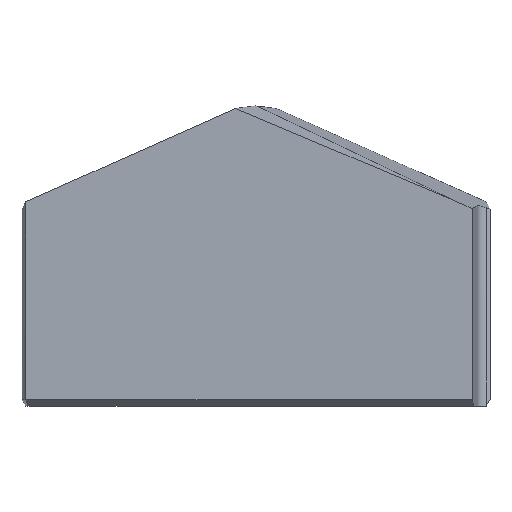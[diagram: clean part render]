
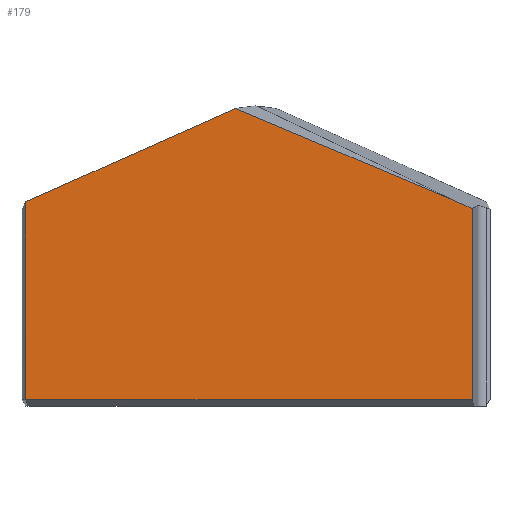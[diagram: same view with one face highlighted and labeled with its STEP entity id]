
A CAD part, top view. The second image highlights one B-rep face of the part: STEP entity #179.
In plain terms, the highlighted planar face has unit normal (0, 0, 1).
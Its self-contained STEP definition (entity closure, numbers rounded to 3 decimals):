
#13 = VERTEX_POINT ( 'NONE', #131 ) ;
#37 = VECTOR ( 'NONE', #39, 1000. ) ;
#39 = DIRECTION ( 'NONE',  ( -0.914, 0.407, 0. ) ) ;
#53 = EDGE_CURVE ( 'NONE', #126, #295, #177, .T. ) ;
#54 = DIRECTION ( 'NONE',  ( 1., 0., 0. ) ) ;
#60 = CARTESIAN_POINT ( 'NONE',  ( 10.265, 0., 4. ) ) ;
#61 = CARTESIAN_POINT ( 'NONE',  ( -10.931, 0.296, 4. ) ) ;
#64 = DIRECTION ( 'NONE',  ( 0., 1., 0. ) ) ;
#79 = VECTOR ( 'NONE', #323, 1000. ) ;
#113 = LINE ( 'NONE', #172, #79 ) ;
#126 = VERTEX_POINT ( 'NONE', #300 ) ;
#131 = CARTESIAN_POINT ( 'NONE',  ( -10.927, 0.289, 4. ) ) ;
#132 = VECTOR ( 'NONE', #403, 1000. ) ;
#152 = ORIENTED_EDGE ( 'NONE', *, *, #53, .T. ) ;
#158 = DIRECTION ( 'NONE',  ( 0., 0., 1. ) ) ;
#172 = CARTESIAN_POINT ( 'NONE',  ( 0., 14.56, 4. ) ) ;
#173 = DIRECTION ( 'NONE',  ( 0., 1., 0. ) ) ;
#176 = VECTOR ( 'NONE', #64, 1000. ) ;
#177 = LINE ( 'NONE', #203, #37 ) ;
#179 = ADVANCED_FACE ( 'NONE', ( #581 ), #306, .T. ) ;
#185 = VERTEX_POINT ( 'NONE', #366 ) ;
#189 = CARTESIAN_POINT ( 'NONE',  ( 9.378, 9.769, 4. ) ) ;
#203 = CARTESIAN_POINT ( 'NONE',  ( 5.181, 11.638, 4. ) ) ;
#214 = VERTEX_POINT ( 'NONE', #222 ) ;
#216 = VERTEX_POINT ( 'NONE', #420 ) ;
#222 = CARTESIAN_POINT ( 'NONE',  ( 10.265, 0.289, 4. ) ) ;
#224 = ORIENTED_EDGE ( 'NONE', *, *, #274, .T. ) ;
#228 = EDGE_CURVE ( 'NONE', #216, #13, #623, .T. ) ;
#231 = EDGE_LOOP ( 'NONE', ( #152, #303, #224, #471, #512, #414, #526 ) ) ;
#250 = EDGE_CURVE ( 'NONE', #216, #185, #452, .T. ) ;
#269 = LINE ( 'NONE', #316, #132 ) ;
#274 = EDGE_CURVE ( 'NONE', #365, #185, #113, .T. ) ;
#276 = CARTESIAN_POINT ( 'NONE',  ( -10.927, 0.289, 4. ) ) ;
#282 = CARTESIAN_POINT ( 'NONE',  ( -0.975, 14.126, 4. ) ) ;
#292 = EDGE_CURVE ( 'NONE', #214, #126, #618, .T. ) ;
#295 = VERTEX_POINT ( 'NONE', #189 ) ;
#300 = CARTESIAN_POINT ( 'NONE',  ( 10.265, 9.374, 4. ) ) ;
#303 = ORIENTED_EDGE ( 'NONE', *, *, #637, .T. ) ;
#306 = PLANE ( 'NONE',  #354 ) ;
#316 = CARTESIAN_POINT ( 'NONE',  ( 4.904, 11.652, 4. ) ) ;
#323 = DIRECTION ( 'NONE',  ( -0.914, -0.407, 0. ) ) ;
#330 = CARTESIAN_POINT ( 'NONE',  ( -10.929, 0.292, 4. ) ) ;
#342 = VECTOR ( 'NONE', #173, 1000. ) ;
#354 = AXIS2_PLACEMENT_3D ( 'NONE', #456, #158, #54 ) ;
#365 = VERTEX_POINT ( 'NONE', #282 ) ;
#366 = CARTESIAN_POINT ( 'NONE',  ( -10.934, 9.692, 4. ) ) ;
#367 = CARTESIAN_POINT ( 'NONE',  ( 10.757, 0.289, 4. ) ) ;
#370 = CARTESIAN_POINT ( 'NONE',  ( -10.934, 0., 4. ) ) ;
#388 = VECTOR ( 'NONE', #459, 1000. ) ;
#403 = DIRECTION ( 'NONE',  ( -0.922, 0.388, 0. ) ) ;
#414 = ORIENTED_EDGE ( 'NONE', *, *, #562, .T. ) ;
#420 = CARTESIAN_POINT ( 'NONE',  ( -10.934, 0.3, 4. ) ) ;
#452 = LINE ( 'NONE', #370, #176 ) ;
#456 = CARTESIAN_POINT ( 'NONE',  ( 0., 0., 4. ) ) ;
#459 = DIRECTION ( 'NONE',  ( 1., 0., 0. ) ) ;
#471 = ORIENTED_EDGE ( 'NONE', *, *, #250, .F. ) ;
#512 = ORIENTED_EDGE ( 'NONE', *, *, #228, .T. ) ;
#526 = ORIENTED_EDGE ( 'NONE', *, *, #292, .T. ) ;
#562 = EDGE_CURVE ( 'NONE', #13, #214, #567, .T. ) ;
#565 = CARTESIAN_POINT ( 'NONE',  ( -10.934, 0.3, 4. ) ) ;
#567 = LINE ( 'NONE', #367, #388 ) ;
#581 = FACE_OUTER_BOUND ( 'NONE', #231, .T. ) ;
#618 = LINE ( 'NONE', #60, #342 ) ;
#623 = B_SPLINE_CURVE_WITH_KNOTS ( 'NONE', 3,
 ( #565, #61, #330, #276 ),
 .UNSPECIFIED., .F., .F.,
 ( 4, 4 ),
 ( 0., 0. ),
 .UNSPECIFIED. ) ;
#637 = EDGE_CURVE ( 'NONE', #295, #365, #269, .T. ) ;
